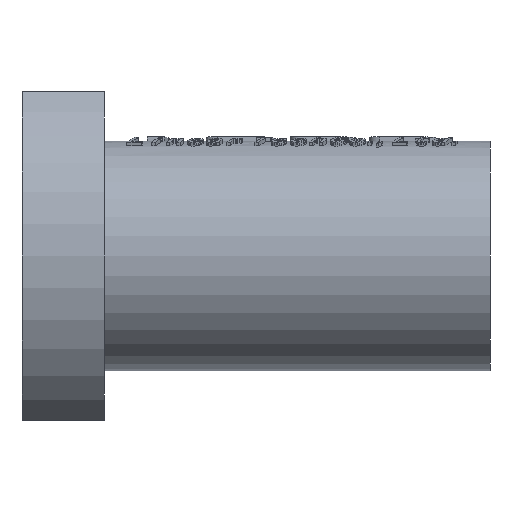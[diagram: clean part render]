
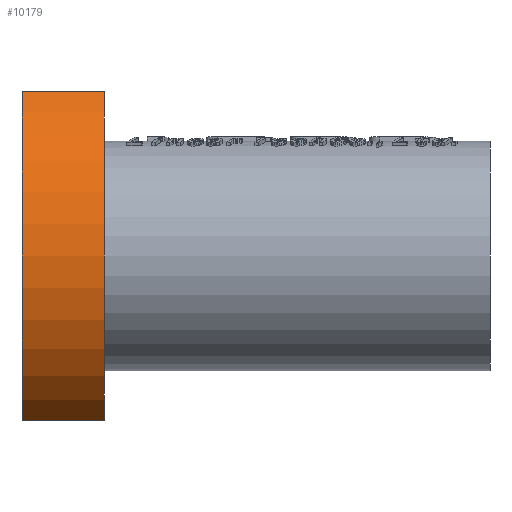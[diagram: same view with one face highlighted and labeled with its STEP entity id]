
A CAD part, front view. The second image highlights one B-rep face of the part: STEP entity #10179.
In plain terms, the highlighted cylindrical face has radius 24 mm (diameter 48 mm), a partial arc.
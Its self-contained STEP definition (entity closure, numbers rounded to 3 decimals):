
#1003 = CARTESIAN_POINT ( 'NONE',  ( 0., 0., 0. ) ) ;
#2316 = VERTEX_POINT ( 'NONE', #27072 ) ;
#2985 = CARTESIAN_POINT ( 'NONE',  ( 10., 0., 0. ) ) ;
#3524 = CYLINDRICAL_SURFACE ( 'NONE', #22548, 24. ) ;
#4623 = VERTEX_POINT ( 'NONE', #9652 ) ;
#4828 = CARTESIAN_POINT ( 'NONE',  ( 0., -13.266, 20. ) ) ;
#5059 = DIRECTION ( 'NONE',  ( 0., 0., 1. ) ) ;
#5137 = CIRCLE ( 'NONE', #9399, 24. ) ;
#5342 = CARTESIAN_POINT ( 'NONE',  ( 0., 0., 0. ) ) ;
#6034 = VECTOR ( 'NONE', #23752, 1000. ) ;
#7331 = LINE ( 'NONE', #27577, #6034 ) ;
#7670 = ORIENTED_EDGE ( 'NONE', *, *, #16402, .T. ) ;
#8880 = CIRCLE ( 'NONE', #15068, 24. ) ;
#8924 = VECTOR ( 'NONE', #24787, 1000. ) ;
#9399 = AXIS2_PLACEMENT_3D ( 'NONE', #2985, #21053, #5059 ) ;
#9513 = VERTEX_POINT ( 'NONE', #28607 ) ;
#9652 = CARTESIAN_POINT ( 'NONE',  ( 0., -13.266, 20. ) ) ;
#10179 = ADVANCED_FACE ( 'NONE', ( #12393 ), #3524, .T. ) ;
#10280 = EDGE_CURVE ( 'NONE', #9513, #2316, #7331, .T. ) ;
#10344 = ORIENTED_EDGE ( 'NONE', *, *, #14437, .F. ) ;
#12393 = FACE_OUTER_BOUND ( 'NONE', #20818, .T. ) ;
#14437 = EDGE_CURVE ( 'NONE', #9513, #4623, #8880, .T. ) ;
#15068 = AXIS2_PLACEMENT_3D ( 'NONE', #5342, #25588, #21340 ) ;
#15780 = LINE ( 'NONE', #4828, #8924 ) ;
#16402 = EDGE_CURVE ( 'NONE', #2316, #26538, #5137, .T. ) ;
#17868 = EDGE_CURVE ( 'NONE', #26538, #4623, #15780, .T. ) ;
#18755 = ORIENTED_EDGE ( 'NONE', *, *, #10280, .T. ) ;
#20818 = EDGE_LOOP ( 'NONE', ( #10344, #18755, #7670, #28004 ) ) ;
#21053 = DIRECTION ( 'NONE',  ( -1., 0., 0. ) ) ;
#21340 = DIRECTION ( 'NONE',  ( 0., 0., 1. ) ) ;
#21584 = DIRECTION ( 'NONE',  ( -1., 0., 0. ) ) ;
#22548 = AXIS2_PLACEMENT_3D ( 'NONE', #1003, #21584, #23352 ) ;
#23352 = DIRECTION ( 'NONE',  ( 0., 0., 1. ) ) ;
#23752 = DIRECTION ( 'NONE',  ( 1., 0., 0. ) ) ;
#24787 = DIRECTION ( 'NONE',  ( -1., 0., 0. ) ) ;
#25588 = DIRECTION ( 'NONE',  ( -1., 0., 0. ) ) ;
#26538 = VERTEX_POINT ( 'NONE', #28557 ) ;
#27072 = CARTESIAN_POINT ( 'NONE',  ( 10., -13.266, -20. ) ) ;
#27577 = CARTESIAN_POINT ( 'NONE',  ( 0., -13.266, -20. ) ) ;
#28004 = ORIENTED_EDGE ( 'NONE', *, *, #17868, .T. ) ;
#28557 = CARTESIAN_POINT ( 'NONE',  ( 10., -13.266, 20. ) ) ;
#28607 = CARTESIAN_POINT ( 'NONE',  ( 0., -13.266, -20. ) ) ;
